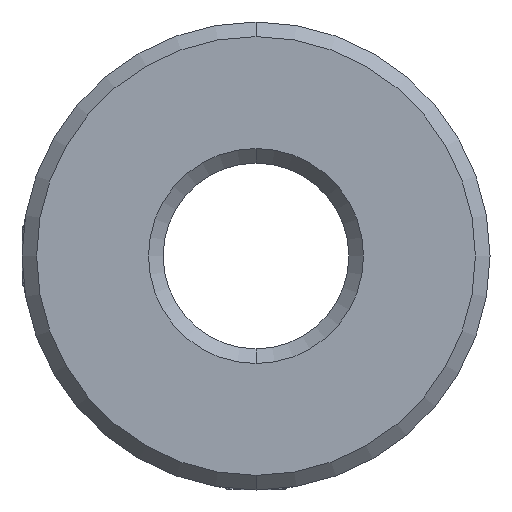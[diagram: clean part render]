
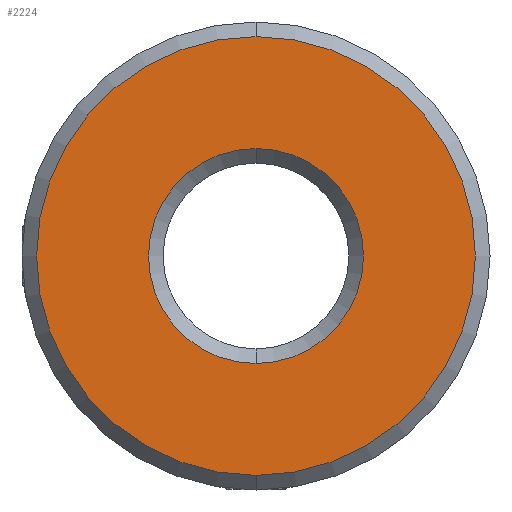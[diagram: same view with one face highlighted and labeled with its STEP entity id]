
A CAD part, front view. The second image highlights one B-rep face of the part: STEP entity #2224.
In plain terms, the highlighted planar face has unit normal (0, -1, 0).
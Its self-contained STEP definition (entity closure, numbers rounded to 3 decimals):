
#135 = DIRECTION ( 'NONE',  ( 0., -1., 0. ) ) ;
#149 = CARTESIAN_POINT ( 'NONE',  ( -10.188, -12.277, -7.454 ) ) ;
#216 = EDGE_LOOP ( 'NONE', ( #3173, #889 ) ) ;
#307 = ORIENTED_EDGE ( 'NONE', *, *, #2254, .T. ) ;
#426 = CARTESIAN_POINT ( 'NONE',  ( -10.188, -12.277, 7.546 ) ) ;
#507 = AXIS2_PLACEMENT_3D ( 'NONE', #677, #135, #2642 ) ;
#660 = VERTEX_POINT ( 'NONE', #426 ) ;
#672 = DIRECTION ( 'NONE',  ( 0., -1., 0. ) ) ;
#677 = CARTESIAN_POINT ( 'NONE',  ( -10.188, -12.277, 0.046 ) ) ;
#682 = AXIS2_PLACEMENT_3D ( 'NONE', #2873, #2364, #2102 ) ;
#889 = ORIENTED_EDGE ( 'NONE', *, *, #2950, .T. ) ;
#942 = CARTESIAN_POINT ( 'NONE',  ( -10.188, -12.277, -3.629 ) ) ;
#943 = FACE_BOUND ( 'NONE', #216, .T. ) ;
#1239 = CARTESIAN_POINT ( 'NONE',  ( -10.188, -12.277, 0.046 ) ) ;
#1246 = CIRCLE ( 'NONE', #1760, 7.5 ) ;
#1322 = CARTESIAN_POINT ( 'NONE',  ( -10.188, -12.277, 3.721 ) ) ;
#1510 = EDGE_LOOP ( 'NONE', ( #3474, #307 ) ) ;
#1515 = PLANE ( 'NONE',  #3445 ) ;
#1598 = VERTEX_POINT ( 'NONE', #1322 ) ;
#1642 = AXIS2_PLACEMENT_3D ( 'NONE', #2819, #2243, #3042 ) ;
#1760 = AXIS2_PLACEMENT_3D ( 'NONE', #2024, #672, #1761 ) ;
#1761 = DIRECTION ( 'NONE',  ( 0., 0., 1. ) ) ;
#2024 = CARTESIAN_POINT ( 'NONE',  ( -10.188, -12.277, 0.046 ) ) ;
#2102 = DIRECTION ( 'NONE',  ( 0., 0., 1. ) ) ;
#2224 = ADVANCED_FACE ( 'NONE', ( #3431, #943 ), #1515, .F. ) ;
#2235 = VERTEX_POINT ( 'NONE', #942 ) ;
#2243 = DIRECTION ( 'NONE',  ( 0., 1., 0. ) ) ;
#2254 = EDGE_CURVE ( 'NONE', #3038, #660, #1246, .T. ) ;
#2364 = DIRECTION ( 'NONE',  ( 0., 1., 0. ) ) ;
#2372 = EDGE_CURVE ( 'NONE', #2235, #1598, #2749, .T. ) ;
#2642 = DIRECTION ( 'NONE',  ( 0., 0., 1. ) ) ;
#2659 = EDGE_CURVE ( 'NONE', #660, #3038, #2811, .T. ) ;
#2749 = CIRCLE ( 'NONE', #682, 3.675 ) ;
#2811 = CIRCLE ( 'NONE', #507, 7.5 ) ;
#2819 = CARTESIAN_POINT ( 'NONE',  ( -10.188, -12.277, 0.046 ) ) ;
#2873 = CARTESIAN_POINT ( 'NONE',  ( -10.188, -12.277, 0.046 ) ) ;
#2950 = EDGE_CURVE ( 'NONE', #1598, #2235, #3221, .T. ) ;
#3038 = VERTEX_POINT ( 'NONE', #149 ) ;
#3042 = DIRECTION ( 'NONE',  ( 0., 0., 1. ) ) ;
#3173 = ORIENTED_EDGE ( 'NONE', *, *, #2372, .T. ) ;
#3196 = DIRECTION ( 'NONE',  ( 0., 0., 1. ) ) ;
#3221 = CIRCLE ( 'NONE', #1642, 3.675 ) ;
#3431 = FACE_OUTER_BOUND ( 'NONE', #1510, .T. ) ;
#3445 = AXIS2_PLACEMENT_3D ( 'NONE', #1239, #3454, #3196 ) ;
#3454 = DIRECTION ( 'NONE',  ( 0., 1., 0. ) ) ;
#3474 = ORIENTED_EDGE ( 'NONE', *, *, #2659, .T. ) ;
